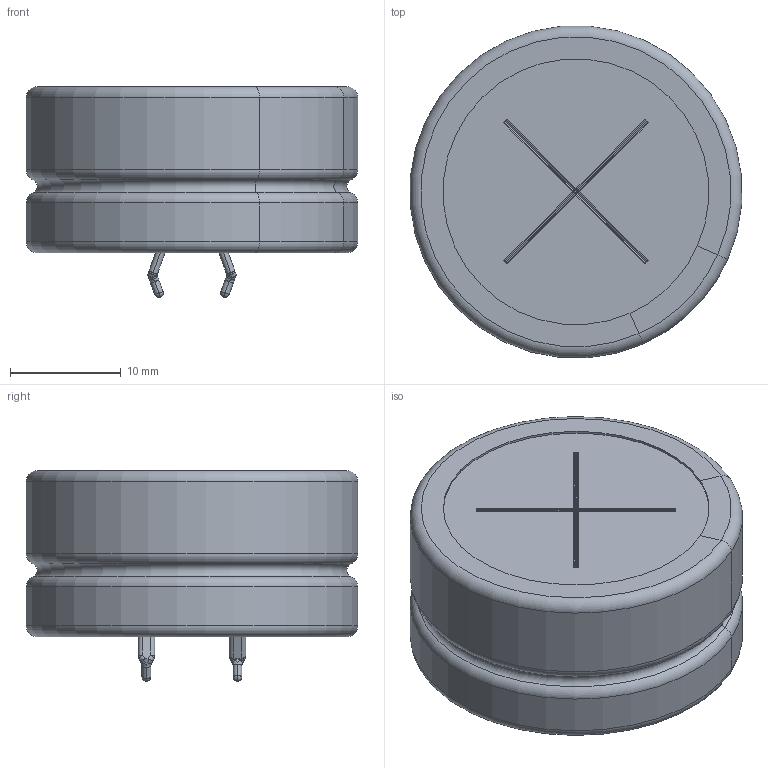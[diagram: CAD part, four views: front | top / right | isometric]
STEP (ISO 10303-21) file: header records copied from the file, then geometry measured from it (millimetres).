
FILE_DESCRIPTION(/* description */ (''),/* implementation_level */ '2;1');
FILE_NAME(/* name */ '30x15_Snap.stp',/* time_stamp */ '2017-09-02T14:50:36+09:00',/* author */ (''),/* organization */ (''),/* preprocessor_version */ 'ST-DEVELOPER v16',/* originating_system */ 'SIEMENS PLM Software NX 11.0',/* authorisation */ '');
FILE_SCHEMA (('AUTOMOTIVE_DESIGN { 1 0 10303 214 3 1 1 1 }'));
Length unit declared in the file: millimetre
Products named in the file (1): 30x15_Snap_igsstp
Bounding box: 29.91 x 29.91 x 19.02 mm (x, y, z)
Volume: 10269.5 mm3; surface area: 6694.2 mm2
Topology: 5 solids, 5 shells, 208 faces, 523 edges, 310 vertices
Faces by surface type: cylinder 76, plane 75, torus 25, sphere 20, bspline 12
Full cylindrical faces by diameter (mm): 4 x2, 29.6 x2
Entity records: 6789 total; most frequent: CARTESIAN_POINT 1265, DIRECTION 1128, ORIENTED_EDGE 988, EDGE_CURVE 494, AXIS2_PLACEMENT_3D 437, VERTEX_POINT 310, LINE 254, VECTOR 254
